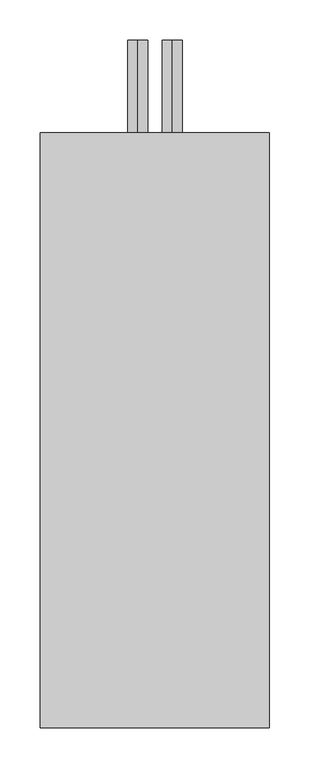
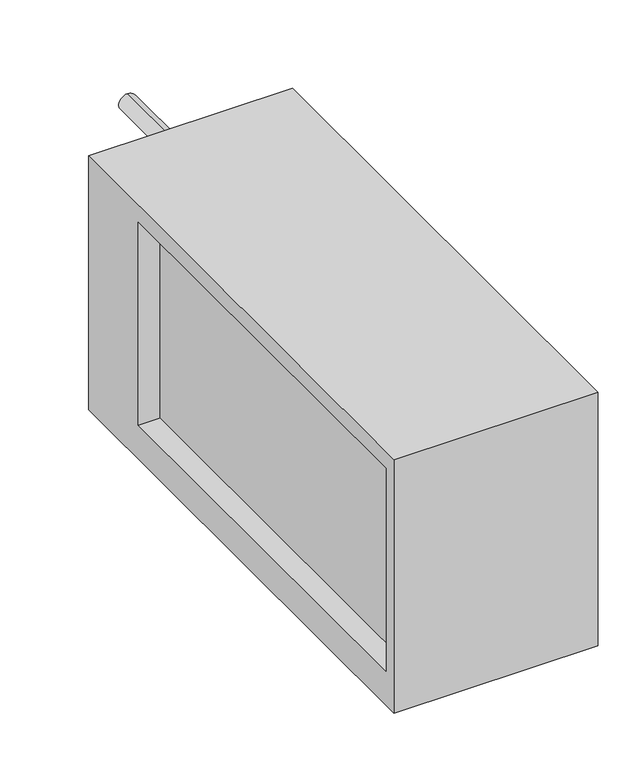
"""IFC4 building model written with IfcOpenShell, lengths in millimetres: proxy geometry, СВ_ВоздухоохладительВодяной_КанальныйПрямоугольный_200-1000_SPC-W : SPC-W-600x300-L."""

from ifc_helpers import new_model, si_unit, point, frame, frame_2d, origin, place, context, project, spatial, polyline, circle_curve, trimmed, segment, composite_curve, outline, extrude, source, transform, mapped, element, save


def mechanical_equipment_50ee9d71(model_context):
    return source(origin(), model_context, "Body", "SweptSolid", [
        extrude(outline(polyline([(-320.0, -200.0), (-320.0, 175.0), (420.0, 175.0), (420.0, -200.0), (-320.0, -200.0)]), holes=[polyline([(-300.0, 150.0), (-300.0, -150.0), (300.0, -150.0), (300.0, 150.0), (-300.0, 150.0)])]), frame((-142.5, 0.0, 0.0), z_axis=(1.0, 0.0, 0.0), x_axis=(0.0, 1.0, 0.0)), (0.0, 0.0, 1.0), 285.0),
        extrude(outline(composite_curve([segment(trimmed(circle_curve(frame_2d((-142.5, 21.5)), 12.5), [point((-155.0, 21.5))], [point((-130.0, 21.5))], False, "CARTESIAN"), True, "CONTINUOUS"), segment(trimmed(circle_curve(frame_2d((-142.5, 21.5)), 12.5), [point((-130.0, 21.5))], [point((-155.0, 21.5))], False, "CARTESIAN"), True, "CONTINUOUS")], self_intersect=False)), frame((0.0, 420.0, 0.0), z_axis=(0.0, 1.0, 0.0), x_axis=(0.0, 0.0, 1.0)), (0.0, 0.0, 1.0), 115.0),
        extrude(outline(composite_curve([segment(trimmed(circle_curve(frame_2d((142.5, -21.5)), 12.5), [point((130.0, -21.5))], [point((155.0, -21.5))], False, "CARTESIAN"), True, "CONTINUOUS"), segment(trimmed(circle_curve(frame_2d((142.5, -21.5)), 12.5), [point((155.0, -21.5))], [point((130.0, -21.5))], False, "CARTESIAN"), True, "CONTINUOUS")], self_intersect=False)), frame((0.0, 420.0, 0.0), z_axis=(0.0, 1.0, 0.0), x_axis=(0.0, 0.0, 1.0)), (0.0, 0.0, 1.0), 115.0),
        extrude(outline(composite_curve([segment(trimmed(circle_curve(frame_2d((0.0, 380.0)), 11.0), [point((-11.0, 380.0))], [point((11.0, 380.0))], False, "CARTESIAN"), True, "CONTINUOUS"), segment(trimmed(circle_curve(frame_2d((0.0, 380.0)), 11.0), [point((11.0, 380.0))], [point((-11.0, 380.0))], False, "CARTESIAN"), True, "CONTINUOUS")], self_intersect=False)), frame((0.0, 0.0, -220.0), z_axis=(0.0, 0.0, 1.0), x_axis=(1.0, 0.0, 0.0)), (0.0, 0.0, 1.0), 20.0),
        extrude(outline(polyline([(112.5, 300.0), (112.5, -300.0), (-112.5, -300.0), (-112.5, 300.0), (112.5, 300.0)])), frame((0.0, 0.0, -150.0), z_axis=(0.0, 0.0, 1.0), x_axis=(1.0, 0.0, 0.0)), (0.0, 0.0, 1.0), 300.0),
    ])


if __name__ == "__main__":
    model = new_model("IFC4")
    model_context = context("Model", 3, world=origin())
    ifc_project = project(units=[si_unit("LENGTHUNIT", "METRE", prefix="MILLI")], contexts=[model_context])
    site = spatial("IfcSite", under=ifc_project)
    building = spatial("IfcBuilding", under=site)
    placement = place(None, origin())
    mechanical_equipment_shape = mechanical_equipment_50ee9d71(model_context)
    element("IfcBuildingElementProxy", 1, Name="СВ_ВоздухоохладительВодяной_КанальныйПрямоугольный_200-1000_SPC-W : SPC-W-600x300-L", ObjectType="СВ_ВоздухоохладительВодяной_КанальныйПрямоугольный_200-1000_SPC-W : SPC-W-600x300-L", at=placement, inside=building, context=model_context, shape_type="MappedRepresentation", body=[
        mapped(mechanical_equipment_shape, transform((0.0, 0.0, 0.0), x_axis=(1.0, 0.0, 0.0), y_axis=(0.0, 1.0, 0.0), z_axis=(0.0, 0.0, 1.0))),
    ])
    save(model, "model.ifc")
